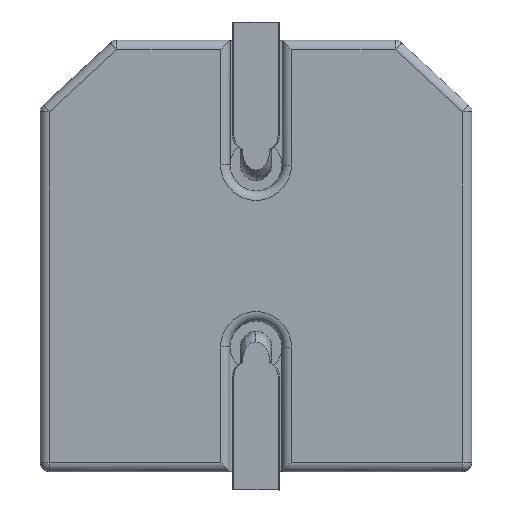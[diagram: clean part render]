
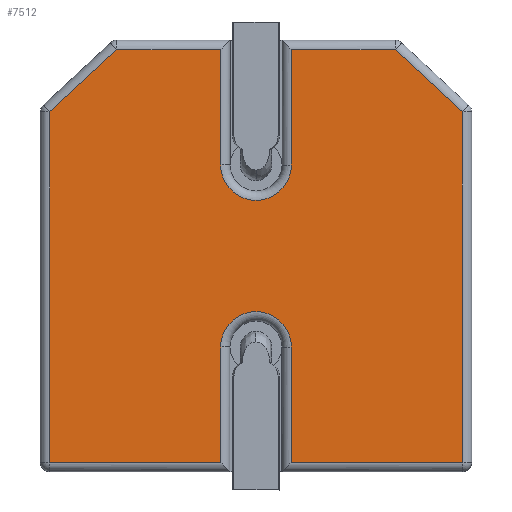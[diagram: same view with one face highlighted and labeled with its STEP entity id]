
A CAD part, left-side view. The second image highlights one B-rep face of the part: STEP entity #7512.
In plain terms, the highlighted planar face has unit normal (-1, 0, 0) as drawn and (0, -1, 0) by its records, which use the part's own axes.
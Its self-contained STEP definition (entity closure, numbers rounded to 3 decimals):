
#6087=DIRECTION('',(-0.733,0.,0.68));
#6088=VECTOR('',#6087,1.761);
#6089=CARTESIAN_POINT('',(3.97,0.,2.772));
#6090=LINE('',#6089,#6088);
#6091=DIRECTION('',(0.,0.,1.));
#6092=VECTOR('',#6091,6.742);
#6093=CARTESIAN_POINT('',(3.97,0.,-3.97));
#6094=LINE('',#6093,#6092);
#6095=DIRECTION('',(1.,0.,0.));
#6096=VECTOR('',#6095,3.29);
#6097=CARTESIAN_POINT('',(0.68,0.,-3.97));
#6098=LINE('',#6097,#6096);
#6099=DIRECTION('',(0.,0.,-1.));
#6100=VECTOR('',#6099,2.22);
#6101=CARTESIAN_POINT('',(0.68,0.,-1.75));
#6102=LINE('',#6101,#6100);
#6103=DIRECTION('',(0.,0.,1.));
#6104=VECTOR('',#6103,2.22);
#6105=CARTESIAN_POINT('',(-0.68,0.,-3.97));
#6106=LINE('',#6105,#6104);
#6107=DIRECTION('',(1.,0.,0.));
#6108=VECTOR('',#6107,3.29);
#6109=CARTESIAN_POINT('',(-3.97,0.,-3.97));
#6110=LINE('',#6109,#6108);
#6111=DIRECTION('',(0.,0.,-1.));
#6112=VECTOR('',#6111,6.742);
#6113=CARTESIAN_POINT('',(-3.97,0.,2.772));
#6114=LINE('',#6113,#6112);
#6115=DIRECTION('',(0.733,0.,0.68));
#6116=VECTOR('',#6115,1.761);
#6117=CARTESIAN_POINT('',(-3.97,0.,2.772));
#6118=LINE('',#6117,#6116);
#6119=DIRECTION('',(-1.,0.,0.));
#6120=VECTOR('',#6119,1.999);
#6121=CARTESIAN_POINT('',(-0.68,0.,3.97));
#6122=LINE('',#6121,#6120);
#6123=DIRECTION('',(0.,0.,1.));
#6124=VECTOR('',#6123,2.22);
#6125=CARTESIAN_POINT('',(-0.68,0.,1.75));
#6126=LINE('',#6125,#6124);
#6127=DIRECTION('',(0.,0.,-1.));
#6128=VECTOR('',#6127,2.22);
#6129=CARTESIAN_POINT('',(0.68,0.,3.97));
#6130=LINE('',#6129,#6128);
#6131=DIRECTION('',(-1.,0.,0.));
#6132=VECTOR('',#6131,1.999);
#6133=CARTESIAN_POINT('',(2.679,0.,3.97));
#6134=LINE('',#6133,#6132);
#6165=CARTESIAN_POINT('',(0.68,0.,3.97));
#6167=CARTESIAN_POINT('',(0.,0.,1.75));
#6168=DIRECTION('',(0.,1.,0.));
#6169=DIRECTION('',(1.,0.,0.));
#6170=AXIS2_PLACEMENT_3D('',#6167,#6168,#6169);
#6249=CARTESIAN_POINT('',(-0.68,0.,-3.97));
#6251=CARTESIAN_POINT('',(0.,0.,-1.75));
#6252=DIRECTION('',(0.,1.,0.));
#6253=DIRECTION('',(-1.,0.,0.));
#6254=AXIS2_PLACEMENT_3D('',#6251,#6252,#6253);
#6271=CARTESIAN_POINT('',(0.68,0.,-3.97));
#7299=CARTESIAN_POINT('',(-3.97,0.,-3.97));
#7301=VERTEX_POINT('',#7299);
#7310=VERTEX_POINT('',#6249);
#7311=CARTESIAN_POINT('',(3.97,0.,-3.97));
#7313=VERTEX_POINT('',#7311);
#7316=VERTEX_POINT('',#6271);
#7335=CARTESIAN_POINT('',(2.679,0.,3.97));
#7337=VERTEX_POINT('',#7335);
#7350=VERTEX_POINT('',#6165);
#7352=CARTESIAN_POINT('',(-2.679,0.,3.97));
#7354=VERTEX_POINT('',#7352);
#7395=CARTESIAN_POINT('',(3.97,0.,2.772));
#7396=VERTEX_POINT('',#7395);
#7397=CARTESIAN_POINT('',(-0.68,0.,3.97));
#7398=VERTEX_POINT('',#7397);
#7445=CARTESIAN_POINT('',(-0.68,0.,-1.75));
#7446=VERTEX_POINT('',#7445);
#7453=CARTESIAN_POINT('',(0.68,0.,-1.75));
#7454=VERTEX_POINT('',#7453);
#7457=CARTESIAN_POINT('',(-3.97,0.,2.772));
#7458=VERTEX_POINT('',#7457);
#7463=CARTESIAN_POINT('',(0.68,0.,1.75));
#7464=VERTEX_POINT('',#7463);
#7471=CARTESIAN_POINT('',(-0.68,0.,1.75));
#7472=VERTEX_POINT('',#7471);
#7477=CARTESIAN_POINT('',(0.,0.,0.));
#7478=DIRECTION('',(0.,1.,0.));
#7479=DIRECTION('',(0.,0.,1.));
#7480=AXIS2_PLACEMENT_3D('',#7477,#7478,#7479);
#7481=PLANE('',#7480);
#7483=ORIENTED_EDGE('',*,*,#7482,.F.);
#7485=ORIENTED_EDGE('',*,*,#7484,.F.);
#7487=ORIENTED_EDGE('',*,*,#7486,.F.);
#7489=ORIENTED_EDGE('',*,*,#7488,.F.);
#7491=ORIENTED_EDGE('',*,*,#7490,.F.);
#7493=ORIENTED_EDGE('',*,*,#7492,.F.);
#7495=ORIENTED_EDGE('',*,*,#7494,.F.);
#7497=ORIENTED_EDGE('',*,*,#7496,.F.);
#7499=ORIENTED_EDGE('',*,*,#7498,.T.);
#7501=ORIENTED_EDGE('',*,*,#7500,.F.);
#7503=ORIENTED_EDGE('',*,*,#7502,.F.);
#7505=ORIENTED_EDGE('',*,*,#7504,.F.);
#7507=ORIENTED_EDGE('',*,*,#7506,.F.);
#7509=ORIENTED_EDGE('',*,*,#7508,.F.);
#7510=EDGE_LOOP('',(#7483,#7485,#7487,#7489,#7491,#7493,#7495,#7497,#7499,#7501,
#7503,#7505,#7507,#7509));
#7511=FACE_OUTER_BOUND('',#7510,.F.);
#7512=ADVANCED_FACE('',(#7511),#7481,.F.);
#6171=CIRCLE('',#6170,0.68);
#6255=CIRCLE('',#6254,0.68);
#7482=EDGE_CURVE('',#7396,#7337,#6090,.T.);
#7484=EDGE_CURVE('',#7313,#7396,#6094,.T.);
#7486=EDGE_CURVE('',#7316,#7313,#6098,.T.);
#7488=EDGE_CURVE('',#7454,#7316,#6102,.T.);
#7490=EDGE_CURVE('',#7446,#7454,#6255,.T.);
#7492=EDGE_CURVE('',#7310,#7446,#6106,.T.);
#7494=EDGE_CURVE('',#7301,#7310,#6110,.T.);
#7496=EDGE_CURVE('',#7458,#7301,#6114,.T.);
#7498=EDGE_CURVE('',#7458,#7354,#6118,.T.);
#7500=EDGE_CURVE('',#7398,#7354,#6122,.T.);
#7502=EDGE_CURVE('',#7472,#7398,#6126,.T.);
#7504=EDGE_CURVE('',#7464,#7472,#6171,.T.);
#7506=EDGE_CURVE('',#7350,#7464,#6130,.T.);
#7508=EDGE_CURVE('',#7337,#7350,#6134,.T.);
